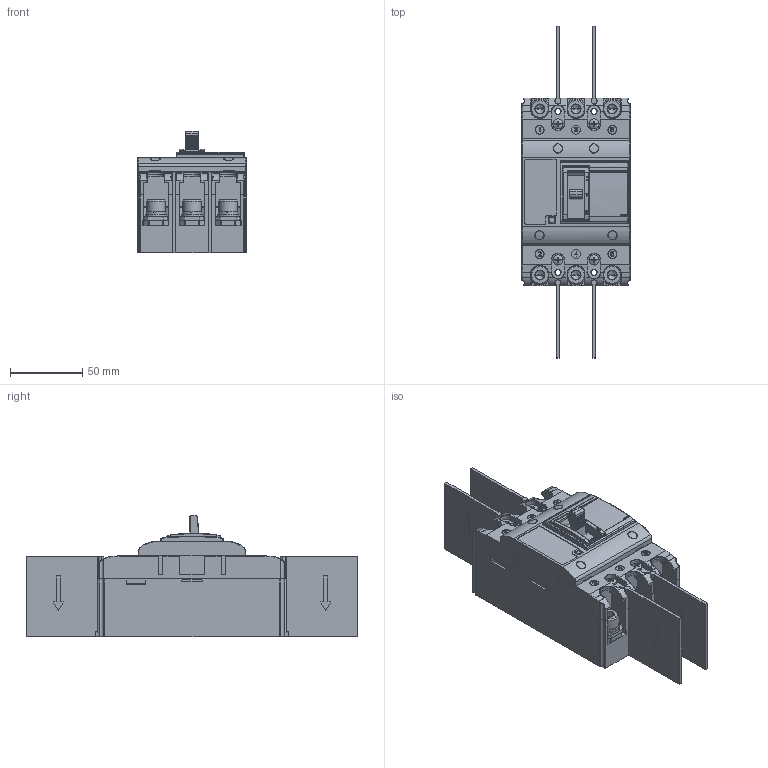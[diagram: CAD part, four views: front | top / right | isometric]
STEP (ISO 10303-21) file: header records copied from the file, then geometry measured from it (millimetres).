
FILE_DESCRIPTION (( 'STEP AP214' ), '1' );
FILE_NAME ('TGM1N-125L-M-H-3P.STEP', '2025-12-18T09:18:35', ( '' ), ( '' ), 'SwSTEP 2.0', 'SolidWorks 2024', '' );
FILE_SCHEMA (( 'AUTOMOTIVE_DESIGN' ));
Length unit declared in the file: millimetre
Products named in the file (27): 8TZD_315_6086_1_1.stp; 8TZD_315_6083_1_1.stp; 5TZD_552_6040_AF2_ASM_1_ASM_1_A_ASM_1.stp; 8TZD_742_6097_1_1_1_1_1.stp; GB_T9074_3-M3_5X18_1_1_1_1_1.stp; 5TZD_552_6040_AF3_ASM_1_ASM_1_A_ASM_1.stp; TGM1N-125L-3300C_ASM_1_ASM_1_ASM_1.stp; 8TZD_253_6033_1_1_1_1_1.stp; TGM1N_K-G-H_-63-125-L-M-3P_ASM__ASM_1.stp; 5TZD_552_6038_ASM_1_ASM_1_ASM_1_ASM_1.stp; 8TZD_253_6021_1_1_1_1_1.stp; 8TZD_585_6043_1_1_1_1_1.stp; TGM1N-125L-330000_ASM_1_ASM_1.stp; 5TZD_558_6122_ASM_1_ASM_1_ASM_1_ASM_1.stp; 8TZD_750_6010_1_1_1_1_1.stp; 5TZD_552_6040_AF4_ASM_1_ASM_1_A_ASM_1.stp; Q_TZJ0301_1-M8X16_1_1_1_1_1.stp; 8TZD_315_6463_1_1_1.stp; TGM1N-125L-M-H-3P.stp; GB_T845-ST2_9X6_5-F_1_1.stp; 8TZD_024_6046_1_1_1_1_1.stp; TGM1N-125L-M-H-3P; 5TZD_024_6037_ASM_1_ASM_1_ASM_1_ASM_1.stp; 5TZD_552_6036_ASM_1_ASM_1_ASM_1_ASM_1.stp; 8TZD_143_6000_1_1_1_1_1.stp; 2TZD_256_1194_ASM_1_ASM_1_ASM_1_ASM_1.stp; 8TZD_552_6014_1_1_1_1_1.stp
Assembly tree (49 placements, depth 9):
  TGM1N-125L-M-H-3P
    TGM1N-125L-M-H-3P.stp
      TGM1N-125L-330000_ASM_1_ASM_1.stp
        TGM1N-125L-3300C_ASM_1_ASM_1_ASM_1.stp
          TGM1N_K-G-H_-63-125-L-M-3P_ASM__ASM_1.stp
            2TZD_256_1194_ASM_1_ASM_1_ASM_1_ASM_1.stp
              5TZD_024_6037_ASM_1_ASM_1_ASM_1_ASM_1.stp
                8TZD_024_6046_1_1_1_1_1.stp
              5TZD_552_6038_ASM_1_ASM_1_ASM_1_ASM_1.stp  x3
                5TZD_552_6036_ASM_1_ASM_1_ASM_1_ASM_1.stp
                  8TZD_552_6014_1_1_1_1_1.stp
              5TZD_558_6122_ASM_1_ASM_1_ASM_1_ASM_1.stp
                5TZD_552_6040_AF2_ASM_1_ASM_1_A_ASM_1.stp
                  8TZD_585_6043_1_1_1_1_1.stp
                5TZD_552_6040_AF3_ASM_1_ASM_1_A_ASM_1.stp
                  8TZD_585_6043_1_1_1_1_1.stp
                5TZD_552_6040_AF4_ASM_1_ASM_1_A_ASM_1.stp
                  8TZD_585_6043_1_1_1_1_1.stp
              8TZD_143_6000_1_1_1_1_1.stp  x6
              8TZD_253_6033_1_1_1_1_1.stp
              8TZD_750_6010_1_1_1_1_1.stp
              8TZD_253_6021_1_1_1_1_1.stp
              GB_T9074_3-M3_5X18_1_1_1_1_1.stp  x4
              Q_TZJ0301_1-M8X16_1_1_1_1_1.stp  x6
          8TZD_315_6463_1_1_1.stp
        8TZD_315_6083_1_1.stp
        8TZD_315_6086_1_1.stp
        GB_T845-ST2_9X6_5-F_1_1.stp  x4
        8TZD_742_6097_1_1_1_1_1.stp  x4
Bounding box: 75 x 229.8 x 84.11 mm (x, y, z)
Volume: 660250 mm3; surface area: 231916.6 mm2
Topology: 21 solids, 65 shells, 4435 faces, 11673 edges, 7398 vertices
Faces by surface type: plane 2649, cylinder 1120, torus 198, bspline 187, cone 165, sphere 116
Entity records: 144130 total; most frequent: CARTESIAN_POINT 53112, ORIENTED_EDGE 19382, DIRECTION 17987, EDGE_CURVE 9697, LINE 6649, VECTOR 6649, VERTEX_POINT 6186, AXIS2_PLACEMENT_3D 5669
